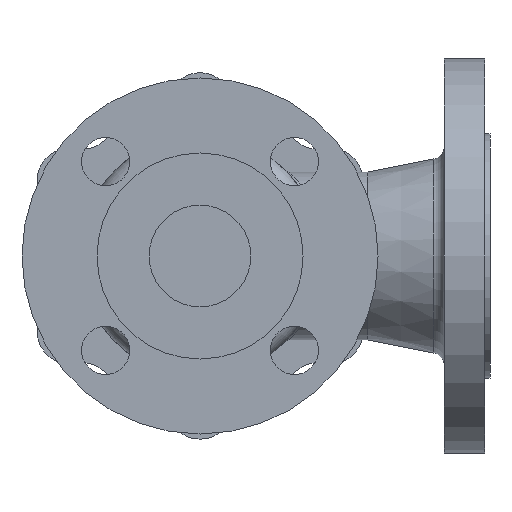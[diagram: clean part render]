
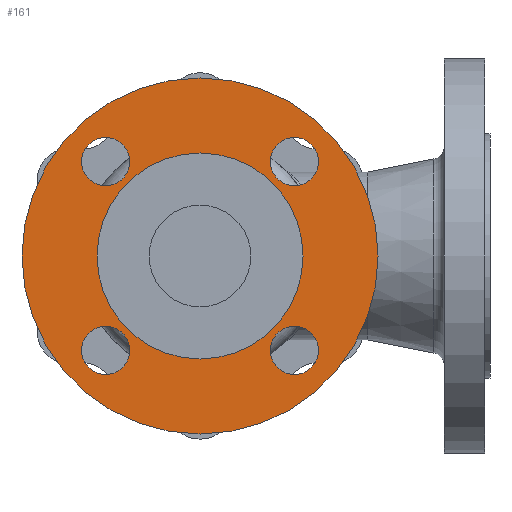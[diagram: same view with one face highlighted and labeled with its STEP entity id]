
A CAD part, front view. The second image highlights one B-rep face of the part: STEP entity #161.
In plain terms, the highlighted planar face has unit normal (0, -1, 0).
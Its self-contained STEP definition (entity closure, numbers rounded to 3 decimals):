
#17 = VERTEX_POINT ( 'NONE', #5669 ) ;
#122 = CIRCLE ( 'NONE', #5759, 9.5 ) ;
#128 = AXIS2_PLACEMENT_3D ( 'NONE', #5361, #5882, #3408 ) ;
#151 = EDGE_CURVE ( 'NONE', #2309, #3168, #5271, .T. ) ;
#161 = ADVANCED_FACE ( 'NONE', ( #2303, #827, #5852, #5825, #4872, #4282 ), #4314, .T. ) ;
#192 = VERTEX_POINT ( 'NONE', #2399 ) ;
#206 = DIRECTION ( 'NONE',  ( 0., -1., 0. ) ) ;
#241 = CIRCLE ( 'NONE', #6282, 70. ) ;
#369 = CARTESIAN_POINT ( 'NONE',  ( -37.123, -98., 37.123 ) ) ;
#418 = CARTESIAN_POINT ( 'NONE',  ( 0., -98., 0. ) ) ;
#433 = DIRECTION ( 'NONE',  ( 0., -1., 0. ) ) ;
#484 = CARTESIAN_POINT ( 'NONE',  ( 37.123, -98., -27.623 ) ) ;
#505 = EDGE_LOOP ( 'NONE', ( #2877, #2462 ) ) ;
#654 = AXIS2_PLACEMENT_3D ( 'NONE', #2461, #4443, #6440 ) ;
#689 = DIRECTION ( 'NONE',  ( 0., 0., 1. ) ) ;
#745 = ORIENTED_EDGE ( 'NONE', *, *, #2718, .F. ) ;
#771 = CARTESIAN_POINT ( 'NONE',  ( -40.5, -98., 0. ) ) ;
#799 = DIRECTION ( 'NONE',  ( 0., -1., 0. ) ) ;
#827 = FACE_BOUND ( 'NONE', #2502, .T. ) ;
#885 = VERTEX_POINT ( 'NONE', #2483 ) ;
#896 = CARTESIAN_POINT ( 'NONE',  ( 37.123, -98., 37.123 ) ) ;
#965 = VERTEX_POINT ( 'NONE', #484 ) ;
#1024 = DIRECTION ( 'NONE',  ( 0., 0., 1. ) ) ;
#1055 = DIRECTION ( 'NONE',  ( 0., 1., 0. ) ) ;
#1082 = EDGE_CURVE ( 'NONE', #2496, #965, #5185, .T. ) ;
#1107 = VERTEX_POINT ( 'NONE', #1528 ) ;
#1278 = EDGE_LOOP ( 'NONE', ( #5985, #3594 ) ) ;
#1317 = CARTESIAN_POINT ( 'NONE',  ( -37.123, -98., -27.623 ) ) ;
#1528 = CARTESIAN_POINT ( 'NONE',  ( -37.123, -98., 46.623 ) ) ;
#1590 = DIRECTION ( 'NONE',  ( 0., -1., 0. ) ) ;
#1597 = EDGE_CURVE ( 'NONE', #17, #4697, #241, .T. ) ;
#1685 = DIRECTION ( 'NONE',  ( 0., 1., 0. ) ) ;
#1707 = VERTEX_POINT ( 'NONE', #1317 ) ;
#1777 = VERTEX_POINT ( 'NONE', #5746 ) ;
#1899 = DIRECTION ( 'NONE',  ( 0., 0., 1. ) ) ;
#1915 = CARTESIAN_POINT ( 'NONE',  ( 0., -98., -40.5 ) ) ;
#2079 = EDGE_CURVE ( 'NONE', #1107, #1777, #122, .T. ) ;
#2247 = CIRCLE ( 'NONE', #2346, 9.5 ) ;
#2260 = AXIS2_PLACEMENT_3D ( 'NONE', #896, #799, #2371 ) ;
#2267 = DIRECTION ( 'NONE',  ( -1., 0., 0. ) ) ;
#2303 = FACE_BOUND ( 'NONE', #505, .T. ) ;
#2309 = VERTEX_POINT ( 'NONE', #5501 ) ;
#2322 = CIRCLE ( 'NONE', #2530, 9.5 ) ;
#2346 = AXIS2_PLACEMENT_3D ( 'NONE', #5847, #4868, #6404 ) ;
#2371 = DIRECTION ( 'NONE',  ( -1., 0., 0. ) ) ;
#2396 = EDGE_LOOP ( 'NONE', ( #4437, #5214 ) ) ;
#2399 = CARTESIAN_POINT ( 'NONE',  ( -37.123, -98., -46.623 ) ) ;
#2461 = CARTESIAN_POINT ( 'NONE',  ( 37.123, -98., -37.123 ) ) ;
#2462 = ORIENTED_EDGE ( 'NONE', *, *, #2778, .F. ) ;
#2464 = AXIS2_PLACEMENT_3D ( 'NONE', #771, #6252, #5323 ) ;
#2483 = CARTESIAN_POINT ( 'NONE',  ( 0., -98., 40.5 ) ) ;
#2496 = VERTEX_POINT ( 'NONE', #4191 ) ;
#2502 = EDGE_LOOP ( 'NONE', ( #4062, #745 ) ) ;
#2514 = EDGE_CURVE ( 'NONE', #4971, #885, #3362, .T. ) ;
#2530 = AXIS2_PLACEMENT_3D ( 'NONE', #2564, #6041, #5456 ) ;
#2564 = CARTESIAN_POINT ( 'NONE',  ( -37.123, -98., -37.123 ) ) ;
#2718 = EDGE_CURVE ( 'NONE', #965, #2496, #4808, .T. ) ;
#2778 = EDGE_CURVE ( 'NONE', #3168, #2309, #6070, .T. ) ;
#2877 = ORIENTED_EDGE ( 'NONE', *, *, #151, .F. ) ;
#3013 = ORIENTED_EDGE ( 'NONE', *, *, #2514, .T. ) ;
#3081 = CIRCLE ( 'NONE', #4941, 70. ) ;
#3138 = CARTESIAN_POINT ( 'NONE',  ( 0., -98., 70. ) ) ;
#3167 = ORIENTED_EDGE ( 'NONE', *, *, #4067, .T. ) ;
#3168 = VERTEX_POINT ( 'NONE', #6433 ) ;
#3220 = CARTESIAN_POINT ( 'NONE',  ( 0., -98., 0. ) ) ;
#3362 = CIRCLE ( 'NONE', #128, 40.5 ) ;
#3408 = DIRECTION ( 'NONE',  ( 0., 0., 1. ) ) ;
#3594 = ORIENTED_EDGE ( 'NONE', *, *, #1597, .F. ) ;
#3602 = CIRCLE ( 'NONE', #6411, 9.5 ) ;
#3622 = CARTESIAN_POINT ( 'NONE',  ( 37.123, -98., -37.123 ) ) ;
#3665 = DIRECTION ( 'NONE',  ( 0., 0., 1. ) ) ;
#4031 = EDGE_CURVE ( 'NONE', #192, #1707, #2322, .T. ) ;
#4062 = ORIENTED_EDGE ( 'NONE', *, *, #1082, .F. ) ;
#4067 = EDGE_CURVE ( 'NONE', #885, #4971, #5964, .T. ) ;
#4106 = ORIENTED_EDGE ( 'NONE', *, *, #5246, .F. ) ;
#4191 = CARTESIAN_POINT ( 'NONE',  ( 37.123, -98., -46.623 ) ) ;
#4194 = AXIS2_PLACEMENT_3D ( 'NONE', #3220, #1685, #3665 ) ;
#4282 = FACE_OUTER_BOUND ( 'NONE', #1278, .T. ) ;
#4314 = PLANE ( 'NONE',  #2464 ) ;
#4437 = ORIENTED_EDGE ( 'NONE', *, *, #4031, .F. ) ;
#4443 = DIRECTION ( 'NONE',  ( 0., -1., 0. ) ) ;
#4697 = VERTEX_POINT ( 'NONE', #3138 ) ;
#4796 = DIRECTION ( 'NONE',  ( 0., 1., 0. ) ) ;
#4808 = CIRCLE ( 'NONE', #654, 9.5 ) ;
#4848 = EDGE_CURVE ( 'NONE', #1707, #192, #2247, .T. ) ;
#4868 = DIRECTION ( 'NONE',  ( 0., -1., 0. ) ) ;
#4872 = FACE_BOUND ( 'NONE', #5884, .T. ) ;
#4941 = AXIS2_PLACEMENT_3D ( 'NONE', #6377, #1055, #1024 ) ;
#4971 = VERTEX_POINT ( 'NONE', #1915 ) ;
#5072 = EDGE_LOOP ( 'NONE', ( #4106, #6199 ) ) ;
#5124 = EDGE_CURVE ( 'NONE', #4697, #17, #3081, .T. ) ;
#5185 = CIRCLE ( 'NONE', #6431, 9.5 ) ;
#5214 = ORIENTED_EDGE ( 'NONE', *, *, #4848, .F. ) ;
#5236 = AXIS2_PLACEMENT_3D ( 'NONE', #6216, #206, #2267 ) ;
#5246 = EDGE_CURVE ( 'NONE', #1777, #1107, #3602, .T. ) ;
#5271 = CIRCLE ( 'NONE', #2260, 9.5 ) ;
#5323 = DIRECTION ( 'NONE',  ( 0., 0., -1. ) ) ;
#5361 = CARTESIAN_POINT ( 'NONE',  ( 0., -98., 0. ) ) ;
#5428 = DIRECTION ( 'NONE',  ( 0., 0., -1. ) ) ;
#5456 = DIRECTION ( 'NONE',  ( 1., 0., 0. ) ) ;
#5501 = CARTESIAN_POINT ( 'NONE',  ( 37.123, -98., 27.623 ) ) ;
#5609 = DIRECTION ( 'NONE',  ( 0., -1., 0. ) ) ;
#5669 = CARTESIAN_POINT ( 'NONE',  ( 0., -98., -70. ) ) ;
#5746 = CARTESIAN_POINT ( 'NONE',  ( -37.123, -98., 27.623 ) ) ;
#5759 = AXIS2_PLACEMENT_3D ( 'NONE', #369, #433, #5428 ) ;
#5825 = FACE_BOUND ( 'NONE', #5072, .T. ) ;
#5847 = CARTESIAN_POINT ( 'NONE',  ( -37.123, -98., -37.123 ) ) ;
#5852 = FACE_BOUND ( 'NONE', #2396, .T. ) ;
#5882 = DIRECTION ( 'NONE',  ( 0., 1., 0. ) ) ;
#5884 = EDGE_LOOP ( 'NONE', ( #3167, #3013 ) ) ;
#5964 = CIRCLE ( 'NONE', #4194, 40.5 ) ;
#5985 = ORIENTED_EDGE ( 'NONE', *, *, #5124, .F. ) ;
#6041 = DIRECTION ( 'NONE',  ( 0., -1., 0. ) ) ;
#6050 = CARTESIAN_POINT ( 'NONE',  ( -37.123, -98., 37.123 ) ) ;
#6070 = CIRCLE ( 'NONE', #5236, 9.5 ) ;
#6199 = ORIENTED_EDGE ( 'NONE', *, *, #2079, .F. ) ;
#6216 = CARTESIAN_POINT ( 'NONE',  ( 37.123, -98., 37.123 ) ) ;
#6252 = DIRECTION ( 'NONE',  ( 0., -1., 0. ) ) ;
#6282 = AXIS2_PLACEMENT_3D ( 'NONE', #418, #4796, #1899 ) ;
#6377 = CARTESIAN_POINT ( 'NONE',  ( 0., -98., 0. ) ) ;
#6404 = DIRECTION ( 'NONE',  ( 1., 0., 0. ) ) ;
#6411 = AXIS2_PLACEMENT_3D ( 'NONE', #6050, #1590, #6444 ) ;
#6431 = AXIS2_PLACEMENT_3D ( 'NONE', #3622, #5609, #689 ) ;
#6433 = CARTESIAN_POINT ( 'NONE',  ( 37.123, -98., 46.623 ) ) ;
#6440 = DIRECTION ( 'NONE',  ( 0., 0., 1. ) ) ;
#6444 = DIRECTION ( 'NONE',  ( 0., 0., -1. ) ) ;
